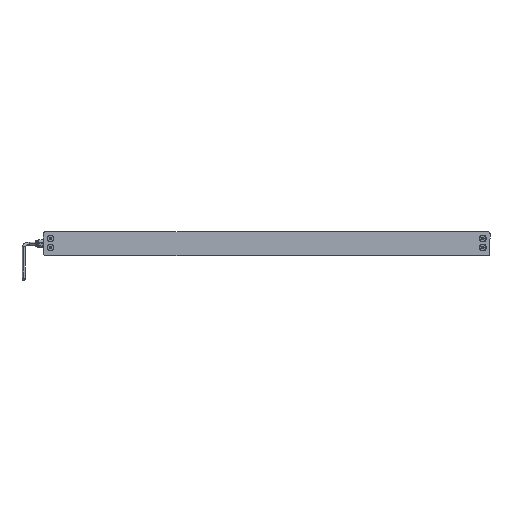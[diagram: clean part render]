
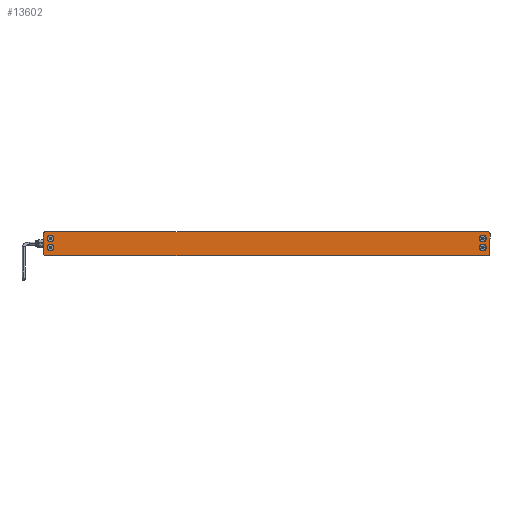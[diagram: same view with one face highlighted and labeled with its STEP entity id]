
A CAD part, left-side view. The second image highlights one B-rep face of the part: STEP entity #13602.
In plain terms, the highlighted planar face has unit normal (-1, 0, 0) as drawn and (0, 0, -1) by its records, which use the part's own axes.
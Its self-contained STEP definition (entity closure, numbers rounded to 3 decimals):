
#86 = EDGE_CURVE ( 'NONE', #2445, #8816, #15198, .T. ) ;
#124 = VERTEX_POINT ( 'NONE', #3648 ) ;
#167 = DIRECTION ( 'NONE',  ( 0., 0., -1. ) ) ;
#558 = EDGE_CURVE ( 'NONE', #12688, #10137, #6716, .T. ) ;
#699 = FACE_BOUND ( 'NONE', #10178, .T. ) ;
#736 = CIRCLE ( 'NONE', #7498, 5.6 ) ;
#796 = DIRECTION ( 'NONE',  ( 0., 0., -1. ) ) ;
#1165 = CARTESIAN_POINT ( 'NONE',  ( 364., 20., 0. ) ) ;
#1240 = LINE ( 'NONE', #15598, #2080 ) ;
#1244 = DIRECTION ( 'NONE',  ( 0., 0., -1. ) ) ;
#1272 = EDGE_CURVE ( 'NONE', #10567, #5593, #12349, .T. ) ;
#1350 = ORIENTED_EDGE ( 'NONE', *, *, #86, .F. ) ;
#1493 = AXIS2_PLACEMENT_3D ( 'NONE', #11158, #13798, #5975 ) ;
#1576 = CARTESIAN_POINT ( 'NONE',  ( 361.9, -6.3, 0. ) ) ;
#1685 = ORIENTED_EDGE ( 'NONE', *, *, #7302, .F. ) ;
#1907 = CARTESIAN_POINT ( 'NONE',  ( -361.9, 8.5, 0. ) ) ;
#2080 = VECTOR ( 'NONE', #10650, 1000. ) ;
#2156 = DIRECTION ( 'NONE',  ( 0., 0., 1. ) ) ;
#2336 = CIRCLE ( 'NONE', #11809, 4. ) ;
#2445 = VERTEX_POINT ( 'NONE', #1165 ) ;
#2617 = VERTEX_POINT ( 'NONE', #1907 ) ;
#2669 = CARTESIAN_POINT ( 'NONE',  ( 350.7, -6.3, 0. ) ) ;
#2684 = CARTESIAN_POINT ( 'NONE',  ( 350.7, 8.5, 0. ) ) ;
#2897 = DIRECTION ( 'NONE',  ( 0., 1., 0. ) ) ;
#3240 = FACE_BOUND ( 'NONE', #6795, .T. ) ;
#3363 = CARTESIAN_POINT ( 'NONE',  ( -364., -20., 0. ) ) ;
#3481 = DIRECTION ( 'NONE',  ( -1., 0., 0. ) ) ;
#3497 = ORIENTED_EDGE ( 'NONE', *, *, #15188, .F. ) ;
#3516 = DIRECTION ( 'NONE',  ( -1., 0., 0. ) ) ;
#3538 = VERTEX_POINT ( 'NONE', #3363 ) ;
#3560 = CARTESIAN_POINT ( 'NONE',  ( -364., 20., 0. ) ) ;
#3629 = DIRECTION ( 'NONE',  ( 1., 0., 0. ) ) ;
#3648 = CARTESIAN_POINT ( 'NONE',  ( 361.9, 8.5, 0. ) ) ;
#3787 = CARTESIAN_POINT ( 'NONE',  ( 356.3, -6.3, 0. ) ) ;
#3904 = CARTESIAN_POINT ( 'NONE',  ( -356.3, 8.5, 0. ) ) ;
#3962 = CARTESIAN_POINT ( 'NONE',  ( -350.7, -6.3, 0. ) ) ;
#4052 = ORIENTED_EDGE ( 'NONE', *, *, #6559, .F. ) ;
#4224 = ORIENTED_EDGE ( 'NONE', *, *, #558, .F. ) ;
#4324 = VERTEX_POINT ( 'NONE', #10497 ) ;
#4435 = DIRECTION ( 'NONE',  ( 0., 0., 1. ) ) ;
#4512 = EDGE_CURVE ( 'NONE', #15243, #16782, #15205, .T. ) ;
#4544 = ORIENTED_EDGE ( 'NONE', *, *, #5757, .F. ) ;
#4585 = EDGE_CURVE ( 'NONE', #14053, #124, #14396, .T. ) ;
#4687 = FACE_BOUND ( 'NONE', #13932, .T. ) ;
#4776 = PLANE ( 'NONE',  #8214 ) ;
#4783 = ORIENTED_EDGE ( 'NONE', *, *, #13531, .F. ) ;
#4908 = ORIENTED_EDGE ( 'NONE', *, *, #11551, .F. ) ;
#4964 = CARTESIAN_POINT ( 'NONE',  ( 368., -16., 0. ) ) ;
#5426 = DIRECTION ( 'NONE',  ( -1., 0., 0. ) ) ;
#5553 = ORIENTED_EDGE ( 'NONE', *, *, #11086, .F. ) ;
#5562 = CIRCLE ( 'NONE', #9360, 5.6 ) ;
#5570 = ORIENTED_EDGE ( 'NONE', *, *, #5955, .F. ) ;
#5593 = VERTEX_POINT ( 'NONE', #1576 ) ;
#5700 = CARTESIAN_POINT ( 'NONE',  ( -364., 16., 0. ) ) ;
#5757 = EDGE_CURVE ( 'NONE', #11556, #12688, #15341, .T. ) ;
#5875 = CARTESIAN_POINT ( 'NONE',  ( 364., 16., 0. ) ) ;
#5930 = VERTEX_POINT ( 'NONE', #15893 ) ;
#5955 = EDGE_CURVE ( 'NONE', #2617, #5930, #5562, .T. ) ;
#5967 = DIRECTION ( 'NONE',  ( -1., 0., 0. ) ) ;
#5975 = DIRECTION ( 'NONE',  ( 1., 0., 0. ) ) ;
#6174 = CARTESIAN_POINT ( 'NONE',  ( -364., -20., 0. ) ) ;
#6246 = CARTESIAN_POINT ( 'NONE',  ( -356.3, -6.3, 0. ) ) ;
#6559 = EDGE_CURVE ( 'NONE', #8816, #4324, #2336, .T. ) ;
#6716 = LINE ( 'NONE', #11880, #13660 ) ;
#6795 = EDGE_LOOP ( 'NONE', ( #11611, #14157 ) ) ;
#7049 = FACE_OUTER_BOUND ( 'NONE', #15712, .T. ) ;
#7138 = ORIENTED_EDGE ( 'NONE', *, *, #4512, .F. ) ;
#7193 = AXIS2_PLACEMENT_3D ( 'NONE', #12517, #796, #5967 ) ;
#7302 = EDGE_CURVE ( 'NONE', #5593, #10567, #736, .T. ) ;
#7362 = CIRCLE ( 'NONE', #10625, 5.6 ) ;
#7364 = EDGE_CURVE ( 'NONE', #3538, #11556, #15519, .T. ) ;
#7498 = AXIS2_PLACEMENT_3D ( 'NONE', #3787, #1244, #16540 ) ;
#7567 = EDGE_CURVE ( 'NONE', #124, #14053, #9141, .T. ) ;
#7712 = VECTOR ( 'NONE', #12480, 1000. ) ;
#7981 = CIRCLE ( 'NONE', #14499, 4. ) ;
#8214 = AXIS2_PLACEMENT_3D ( 'NONE', #5875, #9858, #8428 ) ;
#8421 = AXIS2_PLACEMENT_3D ( 'NONE', #6246, #13891, #11080 ) ;
#8428 = DIRECTION ( 'NONE',  ( -1., 0., 0. ) ) ;
#8800 = DIRECTION ( 'NONE',  ( -1., 0., 0. ) ) ;
#8816 = VERTEX_POINT ( 'NONE', #11897 ) ;
#9015 = VERTEX_POINT ( 'NONE', #11229 ) ;
#9109 = DIRECTION ( 'NONE',  ( 0., 0., -1. ) ) ;
#9141 = CIRCLE ( 'NONE', #12386, 5.6 ) ;
#9360 = AXIS2_PLACEMENT_3D ( 'NONE', #9682, #16145, #9756 ) ;
#9682 = CARTESIAN_POINT ( 'NONE',  ( -356.3, 8.5, 0. ) ) ;
#9756 = DIRECTION ( 'NONE',  ( -1., 0., 0. ) ) ;
#9858 = DIRECTION ( 'NONE',  ( 0., 0., -1. ) ) ;
#9923 = DIRECTION ( 'NONE',  ( 0., 0., -1. ) ) ;
#10137 = VERTEX_POINT ( 'NONE', #16149 ) ;
#10178 = EDGE_LOOP ( 'NONE', ( #5570, #5553 ) ) ;
#10201 = DIRECTION ( 'NONE',  ( -1., 0., 0. ) ) ;
#10335 = CARTESIAN_POINT ( 'NONE',  ( -364., -16., 0. ) ) ;
#10421 = ORIENTED_EDGE ( 'NONE', *, *, #7364, .F. ) ;
#10497 = CARTESIAN_POINT ( 'NONE',  ( -368., 16., 0. ) ) ;
#10567 = VERTEX_POINT ( 'NONE', #2669 ) ;
#10625 = AXIS2_PLACEMENT_3D ( 'NONE', #16397, #9923, #3481 ) ;
#10650 = DIRECTION ( 'NONE',  ( 0., -1., 0. ) ) ;
#11080 = DIRECTION ( 'NONE',  ( -1., 0., 0. ) ) ;
#11086 = EDGE_CURVE ( 'NONE', #5930, #2617, #14223, .T. ) ;
#11158 = CARTESIAN_POINT ( 'NONE',  ( 364., -16., 0. ) ) ;
#11229 = CARTESIAN_POINT ( 'NONE',  ( -368., -16., 0. ) ) ;
#11471 = CARTESIAN_POINT ( 'NONE',  ( 356.3, 8.5, 0. ) ) ;
#11551 = EDGE_CURVE ( 'NONE', #9015, #3538, #7981, .T. ) ;
#11556 = VERTEX_POINT ( 'NONE', #13131 ) ;
#11611 = ORIENTED_EDGE ( 'NONE', *, *, #4585, .F. ) ;
#11809 = AXIS2_PLACEMENT_3D ( 'NONE', #5700, #4435, #11972 ) ;
#11824 = EDGE_LOOP ( 'NONE', ( #13690, #1685 ) ) ;
#11848 = DIRECTION ( 'NONE',  ( -1., 0., 0. ) ) ;
#11880 = CARTESIAN_POINT ( 'NONE',  ( 368., -16., 0. ) ) ;
#11897 = CARTESIAN_POINT ( 'NONE',  ( -364., 20., 0. ) ) ;
#11972 = DIRECTION ( 'NONE',  ( -1., 0., 0. ) ) ;
#12349 = CIRCLE ( 'NONE', #7193, 5.6 ) ;
#12386 = AXIS2_PLACEMENT_3D ( 'NONE', #11471, #9109, #10201 ) ;
#12449 = CARTESIAN_POINT ( 'NONE',  ( 356.3, 8.5, 0. ) ) ;
#12480 = DIRECTION ( 'NONE',  ( -1., 0., 0. ) ) ;
#12517 = CARTESIAN_POINT ( 'NONE',  ( 356.3, -6.3, 0. ) ) ;
#12597 = ORIENTED_EDGE ( 'NONE', *, *, #15991, .F. ) ;
#12688 = VERTEX_POINT ( 'NONE', #4964 ) ;
#13131 = CARTESIAN_POINT ( 'NONE',  ( 364., -20., 0. ) ) ;
#13531 = EDGE_CURVE ( 'NONE', #4324, #9015, #1240, .T. ) ;
#13602 = ADVANCED_FACE ( 'NONE', ( #3240, #14883, #699, #4687, #7049 ), #4776, .T. ) ;
#13660 = VECTOR ( 'NONE', #2897, 1000. ) ;
#13690 = ORIENTED_EDGE ( 'NONE', *, *, #1272, .F. ) ;
#13794 = CARTESIAN_POINT ( 'NONE',  ( -361.9, -6.3, 0. ) ) ;
#13798 = DIRECTION ( 'NONE',  ( 0., 0., 1. ) ) ;
#13891 = DIRECTION ( 'NONE',  ( 0., 0., -1. ) ) ;
#13932 = EDGE_LOOP ( 'NONE', ( #7138, #12597 ) ) ;
#14053 = VERTEX_POINT ( 'NONE', #2684 ) ;
#14157 = ORIENTED_EDGE ( 'NONE', *, *, #7567, .F. ) ;
#14211 = AXIS2_PLACEMENT_3D ( 'NONE', #3904, #167, #5426 ) ;
#14223 = CIRCLE ( 'NONE', #14211, 5.6 ) ;
#14293 = VECTOR ( 'NONE', #3629, 1000. ) ;
#14396 = CIRCLE ( 'NONE', #16575, 5.6 ) ;
#14499 = AXIS2_PLACEMENT_3D ( 'NONE', #10335, #15616, #11848 ) ;
#14694 = AXIS2_PLACEMENT_3D ( 'NONE', #15072, #2156, #3516 ) ;
#14883 = FACE_BOUND ( 'NONE', #11824, .T. ) ;
#14968 = CIRCLE ( 'NONE', #14694, 4. ) ;
#15072 = CARTESIAN_POINT ( 'NONE',  ( 364., 16., 0. ) ) ;
#15188 = EDGE_CURVE ( 'NONE', #10137, #2445, #14968, .T. ) ;
#15198 = LINE ( 'NONE', #3560, #7712 ) ;
#15205 = CIRCLE ( 'NONE', #8421, 5.6 ) ;
#15243 = VERTEX_POINT ( 'NONE', #13794 ) ;
#15341 = CIRCLE ( 'NONE', #1493, 4. ) ;
#15519 = LINE ( 'NONE', #6174, #14293 ) ;
#15598 = CARTESIAN_POINT ( 'NONE',  ( -368., -16., 0. ) ) ;
#15616 = DIRECTION ( 'NONE',  ( 0., 0., 1. ) ) ;
#15712 = EDGE_LOOP ( 'NONE', ( #3497, #4224, #4544, #10421, #4908, #4783, #4052, #1350 ) ) ;
#15893 = CARTESIAN_POINT ( 'NONE',  ( -350.7, 8.5, 0. ) ) ;
#15991 = EDGE_CURVE ( 'NONE', #16782, #15243, #7362, .T. ) ;
#16145 = DIRECTION ( 'NONE',  ( 0., 0., -1. ) ) ;
#16149 = CARTESIAN_POINT ( 'NONE',  ( 368., 16., 0. ) ) ;
#16397 = CARTESIAN_POINT ( 'NONE',  ( -356.3, -6.3, 0. ) ) ;
#16455 = DIRECTION ( 'NONE',  ( 0., 0., -1. ) ) ;
#16540 = DIRECTION ( 'NONE',  ( -1., 0., 0. ) ) ;
#16575 = AXIS2_PLACEMENT_3D ( 'NONE', #12449, #16455, #8800 ) ;
#16782 = VERTEX_POINT ( 'NONE', #3962 ) ;
